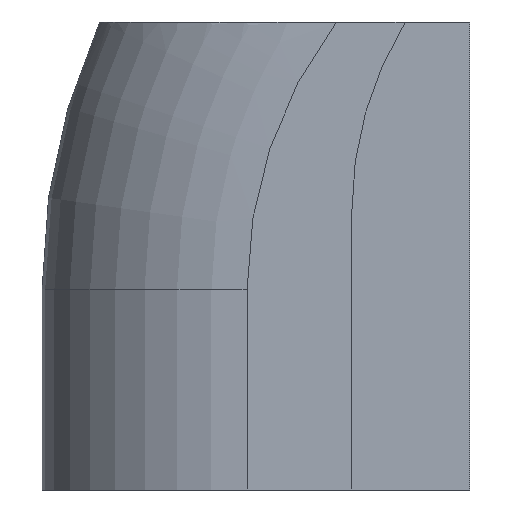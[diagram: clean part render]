
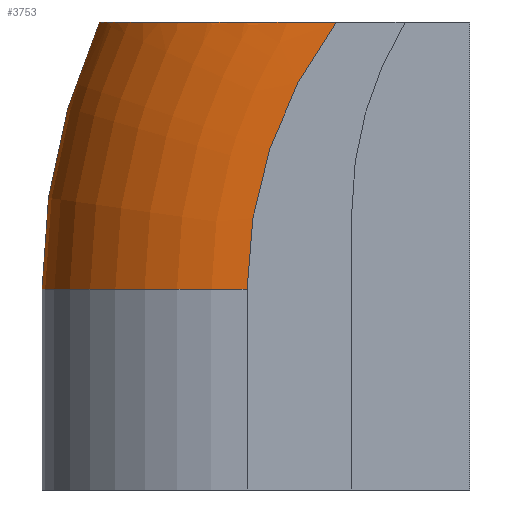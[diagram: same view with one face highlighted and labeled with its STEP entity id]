
A CAD part, front view. The second image highlights one B-rep face of the part: STEP entity #3753.
In plain terms, the highlighted toroidal (fillet/blend) face has major radius 20 mm and minor radius 9.2 mm.
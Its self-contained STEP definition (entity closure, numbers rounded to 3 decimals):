
#3290 = VERTEX_POINT('',#3291);
#3291 = CARTESIAN_POINT('',(-36.,-14.4,47.));
#3300 = CYLINDRICAL_SURFACE('',#3301,9.2);
#3301 = AXIS2_PLACEMENT_3D('',#3302,#3303,#3304);
#3302 = CARTESIAN_POINT('',(-36.,-5.2,47.));
#3303 = DIRECTION('',(-0.,-0.,-1.));
#3304 = DIRECTION('',(0.,-1.,0.));
#3312 = PLANE('',#3313);
#3313 = AXIS2_PLACEMENT_3D('',#3314,#3315,#3316);
#3314 = CARTESIAN_POINT('',(-45.2,-14.4,-76.2));
#3315 = DIRECTION('',(0.,1.,0.));
#3316 = DIRECTION('',(0.,-0.,1.));
#3324 = EDGE_CURVE('',#3290,#3325,#3327,.T.);
#3325 = VERTEX_POINT('',#3326);
#3326 = CARTESIAN_POINT('',(-45.2,-5.2,47.));
#3327 = SURFACE_CURVE('',#3328,(#3333,#3339),.PCURVE_S1.);
#3328 = CIRCLE('',#3329,9.2);
#3329 = AXIS2_PLACEMENT_3D('',#3330,#3331,#3332);
#3330 = CARTESIAN_POINT('',(-36.,-5.2,47.));
#3331 = DIRECTION('',(0.,0.,-1.));
#3332 = DIRECTION('',(-1.,0.,0.));
#3333 = PCURVE('',#3300,#3334);
#3334 = DEFINITIONAL_REPRESENTATION('',(#3335),#3338);
#3335 = B_SPLINE_CURVE_WITH_KNOTS('',1,(#3336,#3337),.UNSPECIFIED.,.F.,
  .F.,(2,2),(4.712,6.283),.PIECEWISE_BEZIER_KNOTS.);
#3336 = CARTESIAN_POINT('',(0.,0.));
#3337 = CARTESIAN_POINT('',(1.571,0.));
#3338 = ( GEOMETRIC_REPRESENTATION_CONTEXT(2) 
PARAMETRIC_REPRESENTATION_CONTEXT() REPRESENTATION_CONTEXT('2D SPACE',''
  ) );
#3339 = PCURVE('',#3340,#3345);
#3340 = TOROIDAL_SURFACE('',#3341,20.,9.2);
#3341 = AXIS2_PLACEMENT_3D('',#3342,#3343,#3344);
#3342 = CARTESIAN_POINT('',(-16.,-5.2,47.));
#3343 = DIRECTION('',(0.,1.,0.));
#3344 = DIRECTION('',(0.,0.,1.));
#3345 = DEFINITIONAL_REPRESENTATION('',(#3346),#3349);
#3346 = B_SPLINE_CURVE_WITH_KNOTS('',1,(#3347,#3348),.UNSPECIFIED.,.F.,
  .F.,(2,2),(4.712,6.283),.PIECEWISE_BEZIER_KNOTS.);
#3347 = CARTESIAN_POINT('',(4.712,4.712));
#3348 = CARTESIAN_POINT('',(4.712,6.283));
#3349 = ( GEOMETRIC_REPRESENTATION_CONTEXT(2) 
PARAMETRIC_REPRESENTATION_CONTEXT() REPRESENTATION_CONTEXT('2D SPACE',''
  ) );
#3435 = EDGE_CURVE('',#3436,#3290,#3438,.T.);
#3436 = VERTEX_POINT('',#3437);
#3437 = CARTESIAN_POINT('',(-32.,-14.4,59.));
#3438 = SURFACE_CURVE('',#3439,(#3444,#3455),.PCURVE_S1.);
#3439 = CIRCLE('',#3440,20.);
#3440 = AXIS2_PLACEMENT_3D('',#3441,#3442,#3443);
#3441 = CARTESIAN_POINT('',(-16.,-14.4,47.));
#3442 = DIRECTION('',(-0.,-1.,0.));
#3443 = DIRECTION('',(0.,0.,1.));
#3444 = PCURVE('',#3312,#3445);
#3445 = DEFINITIONAL_REPRESENTATION('',(#3446),#3454);
#3446 = ( BOUNDED_CURVE() B_SPLINE_CURVE(2,(#3447,#3448,#3449,#3450,
#3451,#3452,#3453),.UNSPECIFIED.,.T.,.F.) B_SPLINE_CURVE_WITH_KNOTS((1,2
    ,2,2,2,1),(-2.094,0.,2.094,4.189,
6.283,8.378),.UNSPECIFIED.) CURVE() 
GEOMETRIC_REPRESENTATION_ITEM() RATIONAL_B_SPLINE_CURVE((1.,0.5,1.,0.5,
1.,0.5,1.)) REPRESENTATION_ITEM('') );
#3447 = CARTESIAN_POINT('',(143.2,29.2));
#3448 = CARTESIAN_POINT('',(143.2,-5.441));
#3449 = CARTESIAN_POINT('',(113.2,11.879));
#3450 = CARTESIAN_POINT('',(83.2,29.2));
#3451 = CARTESIAN_POINT('',(113.2,46.521));
#3452 = CARTESIAN_POINT('',(143.2,63.841));
#3453 = CARTESIAN_POINT('',(143.2,29.2));
#3454 = ( GEOMETRIC_REPRESENTATION_CONTEXT(2) 
PARAMETRIC_REPRESENTATION_CONTEXT() REPRESENTATION_CONTEXT('2D SPACE',''
  ) );
#3455 = PCURVE('',#3340,#3456);
#3456 = DEFINITIONAL_REPRESENTATION('',(#3457),#3461);
#3457 = LINE('',#3458,#3459);
#3458 = CARTESIAN_POINT('',(6.283,4.712));
#3459 = VECTOR('',#3460,1.);
#3460 = DIRECTION('',(-1.,0.));
#3461 = ( GEOMETRIC_REPRESENTATION_CONTEXT(2) 
PARAMETRIC_REPRESENTATION_CONTEXT() REPRESENTATION_CONTEXT('2D SPACE',''
  ) );
#3478 = PLANE('',#3479);
#3479 = AXIS2_PLACEMENT_3D('',#3480,#3481,#3482);
#3480 = CARTESIAN_POINT('',(-46.,-15.,59.));
#3481 = DIRECTION('',(0.,0.,1.));
#3482 = DIRECTION('',(1.,0.,0.));
#3719 = CYLINDRICAL_SURFACE('',#3720,29.2);
#3720 = AXIS2_PLACEMENT_3D('',#3721,#3722,#3723);
#3721 = CARTESIAN_POINT('',(-16.,-14.4,47.));
#3722 = DIRECTION('',(0.,1.,0.));
#3723 = DIRECTION('',(-1.,0.,0.));
#3753 = ADVANCED_FACE('',(#3754),#3340,.T.);
#3754 = FACE_BOUND('',#3755,.T.);
#3755 = EDGE_LOOP('',(#3756,#3848,#3870,#3871));
#3756 = ORIENTED_EDGE('',*,*,#3757,.T.);
#3757 = EDGE_CURVE('',#3436,#3758,#3760,.T.);
#3758 = VERTEX_POINT('',#3759);
#3759 = CARTESIAN_POINT('',(-42.62,-5.2,59.));
#3760 = SURFACE_CURVE('',#3761,(#3788,#3818),.PCURVE_S1.);
#3761 = B_SPLINE_CURVE_WITH_KNOTS('',7,(#3762,#3763,#3764,#3765,#3766,
    #3767,#3768,#3769,#3770,#3771,#3772,#3773,#3774,#3775,#3776,#3777,
    #3778,#3779,#3780,#3781,#3782,#3783,#3784,#3785,#3786,#3787),
  .UNSPECIFIED.,.F.,.F.,(8,6,6,6,8),(0.,0.355,0.565,
    0.699,1.),.UNSPECIFIED.);
#3762 = CARTESIAN_POINT('',(-32.,-14.4,59.));
#3763 = CARTESIAN_POINT('',(-32.795,-14.4,59.));
#3764 = CARTESIAN_POINT('',(-33.589,-14.349,59.));
#3765 = CARTESIAN_POINT('',(-34.38,-14.242,59.));
#3766 = CARTESIAN_POINT('',(-35.162,-14.078,59.));
#3767 = CARTESIAN_POINT('',(-35.928,-13.852,59.));
#3768 = CARTESIAN_POINT('',(-36.671,-13.563,59.));
#3769 = CARTESIAN_POINT('',(-37.805,-13.006,59.));
#3770 = CARTESIAN_POINT('',(-38.215,-12.777,59.));
#3771 = CARTESIAN_POINT('',(-38.612,-12.526,59.));
#3772 = CARTESIAN_POINT('',(-38.996,-12.255,59.));
#3773 = CARTESIAN_POINT('',(-39.364,-11.962,59.));
#3774 = CARTESIAN_POINT('',(-39.714,-11.649,59.));
#3775 = CARTESIAN_POINT('',(-40.256,-11.103,59.));
#3776 = CARTESIAN_POINT('',(-40.46,-10.882,59.));
#3777 = CARTESIAN_POINT('',(-40.655,-10.654,59.));
#3778 = CARTESIAN_POINT('',(-40.842,-10.418,59.));
#3779 = CARTESIAN_POINT('',(-41.019,-10.175,59.));
#3780 = CARTESIAN_POINT('',(-41.187,-9.926,59.));
#3781 = CARTESIAN_POINT('',(-41.696,-9.097,59.));
#3782 = CARTESIAN_POINT('',(-41.998,-8.492,59.));
#3783 = CARTESIAN_POINT('',(-42.244,-7.862,59.));
#3784 = CARTESIAN_POINT('',(-42.432,-7.211,59.));
#3785 = CARTESIAN_POINT('',(-42.557,-6.545,59.));
#3786 = CARTESIAN_POINT('',(-42.62,-5.872,59.));
#3787 = CARTESIAN_POINT('',(-42.62,-5.2,59.));
#3788 = PCURVE('',#3340,#3789);
#3789 = DEFINITIONAL_REPRESENTATION('',(#3790),#3817);
#3790 = B_SPLINE_CURVE_WITH_KNOTS('',7,(#3791,#3792,#3793,#3794,#3795,
    #3796,#3797,#3798,#3799,#3800,#3801,#3802,#3803,#3804,#3805,#3806,
    #3807,#3808,#3809,#3810,#3811,#3812,#3813,#3814,#3815,#3816),
  .UNSPECIFIED.,.F.,.F.,(8,6,6,6,8),(0.,0.355,0.565,
    0.699,1.),.UNSPECIFIED.);
#3791 = CARTESIAN_POINT('',(5.356,4.712));
#3792 = CARTESIAN_POINT('',(5.332,4.781));
#3793 = CARTESIAN_POINT('',(5.31,4.852));
#3794 = CARTESIAN_POINT('',(5.29,4.924));
#3795 = CARTESIAN_POINT('',(5.271,4.997));
#3796 = CARTESIAN_POINT('',(5.254,5.072));
#3797 = CARTESIAN_POINT('',(5.238,5.149));
#3798 = CARTESIAN_POINT('',(5.215,5.272));
#3799 = CARTESIAN_POINT('',(5.207,5.318));
#3800 = CARTESIAN_POINT('',(5.2,5.365));
#3801 = CARTESIAN_POINT('',(5.193,5.412));
#3802 = CARTESIAN_POINT('',(5.187,5.46));
#3803 = CARTESIAN_POINT('',(5.181,5.508));
#3804 = CARTESIAN_POINT('',(5.172,5.587));
#3805 = CARTESIAN_POINT('',(5.168,5.618));
#3806 = CARTESIAN_POINT('',(5.165,5.649));
#3807 = CARTESIAN_POINT('',(5.162,5.681));
#3808 = CARTESIAN_POINT('',(5.16,5.712));
#3809 = CARTESIAN_POINT('',(5.157,5.744));
#3810 = CARTESIAN_POINT('',(5.149,5.847));
#3811 = CARTESIAN_POINT('',(5.145,5.919));
#3812 = CARTESIAN_POINT('',(5.141,5.991));
#3813 = CARTESIAN_POINT('',(5.139,6.064));
#3814 = CARTESIAN_POINT('',(5.137,6.137));
#3815 = CARTESIAN_POINT('',(5.136,6.21));
#3816 = CARTESIAN_POINT('',(5.136,6.283));
#3817 = ( GEOMETRIC_REPRESENTATION_CONTEXT(2) 
PARAMETRIC_REPRESENTATION_CONTEXT() REPRESENTATION_CONTEXT('2D SPACE',''
  ) );
#3818 = PCURVE('',#3478,#3819);
#3819 = DEFINITIONAL_REPRESENTATION('',(#3820),#3847);
#3820 = B_SPLINE_CURVE_WITH_KNOTS('',7,(#3821,#3822,#3823,#3824,#3825,
    #3826,#3827,#3828,#3829,#3830,#3831,#3832,#3833,#3834,#3835,#3836,
    #3837,#3838,#3839,#3840,#3841,#3842,#3843,#3844,#3845,#3846),
  .UNSPECIFIED.,.F.,.F.,(8,6,6,6,8),(0.,0.355,0.565,
    0.699,1.),.UNSPECIFIED.);
#3821 = CARTESIAN_POINT('',(14.,0.6));
#3822 = CARTESIAN_POINT('',(13.205,0.6));
#3823 = CARTESIAN_POINT('',(12.411,0.651));
#3824 = CARTESIAN_POINT('',(11.62,0.758));
#3825 = CARTESIAN_POINT('',(10.838,0.922));
#3826 = CARTESIAN_POINT('',(10.072,1.148));
#3827 = CARTESIAN_POINT('',(9.329,1.437));
#3828 = CARTESIAN_POINT('',(8.195,1.994));
#3829 = CARTESIAN_POINT('',(7.785,2.223));
#3830 = CARTESIAN_POINT('',(7.388,2.474));
#3831 = CARTESIAN_POINT('',(7.004,2.745));
#3832 = CARTESIAN_POINT('',(6.636,3.038));
#3833 = CARTESIAN_POINT('',(6.286,3.351));
#3834 = CARTESIAN_POINT('',(5.744,3.897));
#3835 = CARTESIAN_POINT('',(5.54,4.118));
#3836 = CARTESIAN_POINT('',(5.345,4.346));
#3837 = CARTESIAN_POINT('',(5.158,4.582));
#3838 = CARTESIAN_POINT('',(4.981,4.825));
#3839 = CARTESIAN_POINT('',(4.813,5.074));
#3840 = CARTESIAN_POINT('',(4.304,5.903));
#3841 = CARTESIAN_POINT('',(4.002,6.508));
#3842 = CARTESIAN_POINT('',(3.756,7.138));
#3843 = CARTESIAN_POINT('',(3.568,7.789));
#3844 = CARTESIAN_POINT('',(3.443,8.455));
#3845 = CARTESIAN_POINT('',(3.38,9.128));
#3846 = CARTESIAN_POINT('',(3.38,9.8));
#3847 = ( GEOMETRIC_REPRESENTATION_CONTEXT(2) 
PARAMETRIC_REPRESENTATION_CONTEXT() REPRESENTATION_CONTEXT('2D SPACE',''
  ) );
#3848 = ORIENTED_EDGE('',*,*,#3849,.T.);
#3849 = EDGE_CURVE('',#3758,#3325,#3850,.T.);
#3850 = SURFACE_CURVE('',#3851,(#3856,#3863),.PCURVE_S1.);
#3851 = CIRCLE('',#3852,29.2);
#3852 = AXIS2_PLACEMENT_3D('',#3853,#3854,#3855);
#3853 = CARTESIAN_POINT('',(-16.,-5.2,47.));
#3854 = DIRECTION('',(-0.,-1.,0.));
#3855 = DIRECTION('',(0.,0.,1.));
#3856 = PCURVE('',#3340,#3857);
#3857 = DEFINITIONAL_REPRESENTATION('',(#3858),#3862);
#3858 = LINE('',#3859,#3860);
#3859 = CARTESIAN_POINT('',(6.283,6.283));
#3860 = VECTOR('',#3861,1.);
#3861 = DIRECTION('',(-1.,0.));
#3862 = ( GEOMETRIC_REPRESENTATION_CONTEXT(2) 
PARAMETRIC_REPRESENTATION_CONTEXT() REPRESENTATION_CONTEXT('2D SPACE',''
  ) );
#3863 = PCURVE('',#3719,#3864);
#3864 = DEFINITIONAL_REPRESENTATION('',(#3865),#3869);
#3865 = LINE('',#3866,#3867);
#3866 = CARTESIAN_POINT('',(1.571,9.2));
#3867 = VECTOR('',#3868,1.);
#3868 = DIRECTION('',(-1.,-0.));
#3869 = ( GEOMETRIC_REPRESENTATION_CONTEXT(2) 
PARAMETRIC_REPRESENTATION_CONTEXT() REPRESENTATION_CONTEXT('2D SPACE',''
  ) );
#3870 = ORIENTED_EDGE('',*,*,#3324,.F.);
#3871 = ORIENTED_EDGE('',*,*,#3435,.F.);
